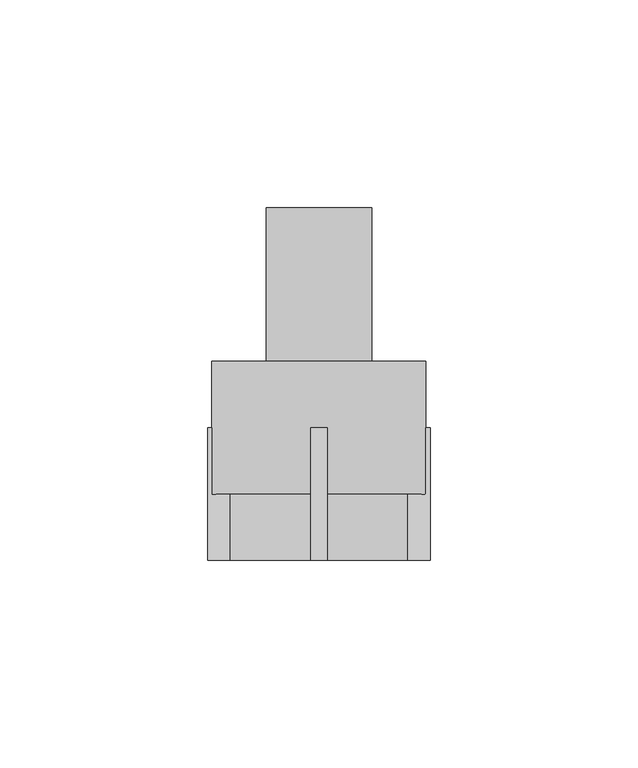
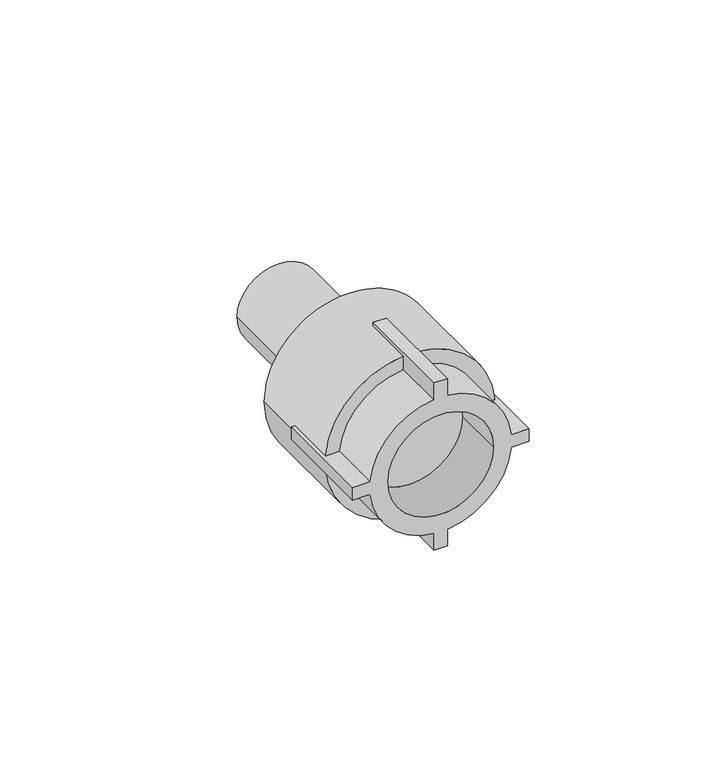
"""IFC4 building model written with IfcOpenShell, lengths in millimetres: pipe fitting geometry, EGB_VASEN_ PPR_Entronque rosca macho WXR101 : Entronque rosca macho WXR101."""

from ifc_helpers import new_model, si_unit, point, frame, origin, origin_2d, place, context, project, spatial, polyline, circle_curve, trimmed, segment, composite_curve, outline, extrude, source, transform, mapped, element, save
from ifc_brep_helpers import plane_surface, cylinder_surface, revolved_surface, advanced_brep


def pipe_fitting_51520e09(model_context):
    return source(origin(), model_context, "Body", "SolidModel", [
        advanced_brep(
        [(2.0, -16.0, 26.8), (-2.0, -16.0, 26.8), (-2.0, -16.0, 21.4067746), (-21.4067746, -16.0, 2.0), (-26.8, -16.0, 2.0), (-26.8, -16.0, -2.0), (-21.4067746, -16.0, -2.0), (-2.0, -16.0, -21.4067746), (-2.0, -16.0, -26.8), (2.0, -16.0, -26.8), (2.0, -16.0, -21.4067746), (21.4067746, -16.0, -2.0), (26.8, -16.0, -2.0), (26.8, -16.0, 2.0), (21.4067746, -16.0, 2.0), (2.0, -16.0, 21.4067746), (-16.0, -16.0, 0.0), (16.0, -16.0, 0.0), (-2.0, 16.0, 26.8), (2.0, 16.0, 26.8), (2.0, 16.0, 25.7223638), (-2.0, 16.0, 25.7223638), (2.0, 16.0, -26.8), (-2.0, 16.0, -26.8), (-2.0, 16.0, -25.7223638), (2.0, 16.0, -25.7223638), (26.8, 16.0, 2.0), (26.8, 16.0, -2.0), (25.7223638, 16.0, -2.0), (25.8, 16.0, 0.0), (25.7223638, 16.0, 2.0), (-26.8, 16.0, -2.0), (-26.8, 16.0, 2.0), (-25.7223638, 16.0, 2.0), (-25.8, 16.0, 0.0), (-25.7223638, 16.0, -2.0), (2.0, 0.0, 21.4067746), (2.0, 0.0, 25.7223638), (-2.0, 0.0, 25.7223638), (-2.0, 0.0, 21.4067746), (2.0, 0.0, -25.7223638), (2.0, 0.0, -21.4067746), (-2.0, 0.0, -21.4067746), (-2.0, 0.0, -25.7223638), (21.4067746, 0.0, -2.0), (25.7223638, 0.0, -2.0), (25.7223638, 0.0, 2.0), (21.4067746, 0.0, 2.0), (-25.7223638, 0.0, -2.0), (-21.4067746, 0.0, -2.0), (-21.4067746, 0.0, 2.0), (-25.7223638, 0.0, 2.0), (-16.0, 0.0, 0.0), (16.0, 0.0, 0.0), (-25.8, 32.0, 0.0), (25.8, 32.0, 0.0)],
        [
            (0, 1),
            (1, 2),
            (2, 3, circle_curve(frame((0.0, -16.0, 0.0), z_axis=(0.0, -1.0, 0.0), x_axis=(1.0, 0.0, 0.0)), 21.5)),
            (3, 4),
            (4, 5),
            (5, 6),
            (6, 7, circle_curve(frame((0.0, -16.0, 0.0), z_axis=(0.0, -1.0, 0.0), x_axis=(1.0, 0.0, 0.0)), 21.5)),
            (7, 8),
            (8, 9),
            (9, 10),
            (10, 11, circle_curve(frame((0.0, -16.0, 0.0), z_axis=(0.0, -1.0, 0.0), x_axis=(1.0, 0.0, 0.0)), 21.5)),
            (11, 12),
            (12, 13),
            (13, 14),
            (14, 15, circle_curve(frame((0.0, -16.0, 0.0), z_axis=(0.0, -1.0, 0.0), x_axis=(1.0, 0.0, 0.0)), 21.5)),
            (15, 0),
            (16, 17, circle_curve(frame((0.0, -16.0, 0.0), z_axis=(0.0, 1.0, 0.0), x_axis=(1.0, 0.0, 0.0)), 16.0)),
            (17, 16, circle_curve(frame((0.0, -16.0, 0.0), z_axis=(0.0, 1.0, 0.0), x_axis=(1.0, 0.0, 0.0)), 16.0)),
            (18, 19),
            (19, 20),
            (20, 21, circle_curve(frame((0.0, 16.0, 0.0), z_axis=(0.0, -1.0, 0.0), x_axis=(1.0, 0.0, 0.0)), 25.8)),
            (21, 18),
            (22, 23),
            (23, 24),
            (24, 25, circle_curve(frame((0.0, 16.0, 0.0), z_axis=(0.0, -1.0, 0.0), x_axis=(1.0, 0.0, 0.0)), 25.8)),
            (25, 22),
            (26, 27),
            (27, 28),
            (28, 29, circle_curve(frame((0.0, 16.0, 0.0), z_axis=(0.0, -1.0, 0.0), x_axis=(1.0, 0.0, 0.0)), 25.8)),
            (29, 30, circle_curve(frame((0.0, 16.0, 0.0), z_axis=(0.0, -1.0, 0.0), x_axis=(1.0, 0.0, 0.0)), 25.8)),
            (30, 26),
            (31, 32),
            (32, 33),
            (33, 34, circle_curve(frame((0.0, 16.0, 0.0), z_axis=(0.0, -1.0, 0.0), x_axis=(1.0, 0.0, 0.0)), 25.8)),
            (34, 35, circle_curve(frame((0.0, 16.0, 0.0), z_axis=(0.0, -1.0, 0.0), x_axis=(1.0, 0.0, 0.0)), 25.8)),
            (35, 31),
            (19, 0),
            (15, 36),
            (36, 37),
            (37, 20),
            (18, 1),
            (21, 38),
            (38, 39),
            (39, 2),
            (8, 23),
            (22, 9),
            (25, 40),
            (40, 41),
            (41, 10),
            (7, 42),
            (42, 43),
            (43, 24),
            (27, 12),
            (11, 44),
            (44, 45),
            (45, 28),
            (26, 13),
            (30, 46),
            (46, 47),
            (47, 14),
            (5, 31),
            (35, 48),
            (48, 49),
            (49, 6),
            (32, 4),
            (3, 50),
            (50, 51),
            (51, 33),
            (49, 42, circle_curve(frame((0.0, 0.0, 0.0), z_axis=(0.0, -1.0, 0.0), x_axis=(1.0, 0.0, 0.0)), 21.5)),
            (41, 44, circle_curve(frame((0.0, 0.0, 0.0), z_axis=(0.0, -1.0, 0.0), x_axis=(1.0, 0.0, 0.0)), 21.5)),
            (39, 50, circle_curve(frame((0.0, 0.0, 0.0), z_axis=(0.0, -1.0, 0.0), x_axis=(1.0, 0.0, 0.0)), 21.5)),
            (47, 36, circle_curve(frame((0.0, 0.0, 0.0), z_axis=(0.0, -1.0, 0.0), x_axis=(1.0, 0.0, 0.0)), 21.5)),
            (16, 52),
            (52, 53, circle_curve(frame((0.0, 0.0, 0.0), z_axis=(0.0, 1.0, 0.0), x_axis=(1.0, 0.0, 0.0)), 16.0)),
            (53, 17),
            (53, 52, circle_curve(frame((0.0, 0.0, 0.0), z_axis=(0.0, 1.0, 0.0), x_axis=(1.0, 0.0, 0.0)), 16.0)),
            (40, 45, circle_curve(frame((0.0, 0.0, 0.0), z_axis=(0.0, -1.0, 0.0), x_axis=(1.0, 0.0, 0.0)), 25.8)),
            (48, 43, circle_curve(frame((0.0, 0.0, 0.0), z_axis=(0.0, -1.0, 0.0), x_axis=(1.0, 0.0, 0.0)), 25.8)),
            (46, 37, circle_curve(frame((0.0, 0.0, 0.0), z_axis=(0.0, -1.0, 0.0), x_axis=(1.0, 0.0, 0.0)), 25.8)),
            (38, 51, circle_curve(frame((0.0, 0.0, 0.0), z_axis=(0.0, -1.0, 0.0), x_axis=(1.0, 0.0, 0.0)), 25.8)),
            (54, 55, circle_curve(frame((0.0, 32.0, 0.0), z_axis=(0.0, 1.0, 0.0), x_axis=(1.0, 0.0, 0.0)), 25.8)),
            (55, 54, circle_curve(frame((0.0, 32.0, 0.0), z_axis=(0.0, 1.0, 0.0), x_axis=(1.0, 0.0, 0.0)), 25.8)),
            (55, 29),
            (34, 54),
        ],
        [
            plane_surface(frame((0.0, -16.0, 0.0), z_axis=(0.0, -1.0, 0.0), x_axis=(0.0, 0.0, 1.0))),
            plane_surface(frame((0.0, 16.0, 0.0), z_axis=(0.0, 1.0, 0.0), x_axis=(0.0, 0.0, 1.0))),
            plane_surface(frame((2.0, -16.0, 20.5), z_axis=(1.0, 0.0, 0.0), x_axis=(0.0, 1.0, 0.0))),
            plane_surface(frame((2.0, -16.0, 26.8), z_axis=(0.0, 0.0, 1.0), x_axis=(0.0, 1.0, 0.0))),
            plane_surface(frame((-2.0, -16.0, 26.8), z_axis=(-1.0, 0.0, 0.0), x_axis=(0.0, 1.0, 0.0))),
            plane_surface(frame((-2.0, -16.0, -26.8), z_axis=(0.0, 0.0, -1.0), x_axis=(0.0, 1.0, 0.0))),
            plane_surface(frame((2.0, -16.0, -26.8), z_axis=(1.0, 0.0, 0.0), x_axis=(0.0, 1.0, 0.0))),
            plane_surface(frame((-2.0, -16.0, -20.5), z_axis=(-1.0, 0.0, 0.0), x_axis=(0.0, 1.0, 0.0))),
            plane_surface(frame((20.5, -16.0, -2.0), z_axis=(0.0, 0.0, -1.0), x_axis=(0.0, 1.0, 0.0))),
            plane_surface(frame((26.8, -16.0, -2.0), z_axis=(1.0, 0.0, 0.0), x_axis=(0.0, 1.0, 0.0))),
            plane_surface(frame((26.8, -16.0, 2.0), z_axis=(0.0, 0.0, 1.0), x_axis=(0.0, 1.0, 0.0))),
            plane_surface(frame((-26.8, -16.0, -2.0), z_axis=(0.0, 0.0, -1.0), x_axis=(0.0, 1.0, 0.0))),
            plane_surface(frame((-20.5, -16.0, 2.0), z_axis=(0.0, 0.0, 1.0), x_axis=(0.0, 1.0, 0.0))),
            plane_surface(frame((-26.8, -16.0, 2.0), z_axis=(-1.0, 0.0, 0.0), x_axis=(0.0, 1.0, 0.0))),
            cylinder_surface(frame((0.0, 0.0, 0.0), z_axis=(0.0, -1.0, 0.0), x_axis=(1.0, 0.0, 0.0)), 21.5),
            revolved_surface(polyline([(16.0, 0.0, 0.0), (16.0, -16.0, 0.0)]), (0.0, 0.0, 0.0), (0.0, 1.0, 0.0)),
            plane_surface(frame((25.8, 0.0, 0.0), z_axis=(0.0, -1.0, 0.0), x_axis=(0.0, 0.0, 1.0))),
            plane_surface(frame((25.8, 32.0, 0.0), z_axis=(0.0, 1.0, 0.0), x_axis=(0.0, 0.0, -1.0))),
            cylinder_surface(frame((0.0, 32.0, 0.0), z_axis=(0.0, -1.0, 0.0), x_axis=(1.0, 0.0, 0.0)), 25.8),
        ],
        [
            (0, [[1, 2, 3, 4, 5, 6, 7, 8, 9, 10, 11, 12, 13, 14, 15, 16], [17, 18]]),
            (1, [[19, 20, 21, 22]]),
            (1, [[23, 24, 25, 26]]),
            (1, [[27, 28, 29, 30, 31]]),
            (1, [[32, 33, 34, 35, 36]]),
            (2, [[37, -16, 38, 39, 40, -20]]),
            (3, [[-1, -37, -19, 41]]),
            (4, [[-41, -22, 42, 43, 44, -2]]),
            (5, [[-9, 45, -23, 46]]),
            (6, [[-46, -26, 47, 48, 49, -10]]),
            (7, [[-45, -8, 50, 51, 52, -24]]),
            (8, [[53, -12, 54, 55, 56, -28]]),
            (9, [[-13, -53, -27, 57]]),
            (10, [[-57, -31, 58, 59, 60, -14]]),
            (11, [[61, -36, 62, 63, 64, -6]]),
            (12, [[65, -4, 66, 67, 68, -33]]),
            (13, [[-5, -65, -32, -61]]),
            (14, [[-7, -64, 69, -50]]),
            (14, [[-11, -49, 70, -54]]),
            (14, [[-3, -44, 71, -66]]),
            (14, [[-15, -60, 72, -38]]),
            (15, [[-17, 73, 74, 75]]),
            (15, [[-18, -75, 76, -73]]),
            (16, [[-74, -76]]),
            (16, [[77, -55, -70, -48]]),
            (16, [[78, -51, -69, -63]]),
            (16, [[79, -39, -72, -59]]),
            (16, [[80, -67, -71, -43]]),
            (17, [[81, 82]]),
            (18, [[-82, 83, -29, -56, -77, -47, -25, -52, -78, -62, -35, 84]]),
            (18, [[-81, -84, -34, -68, -80, -42, -21, -40, -79, -58, -30, -83]]),
        ],
    ),
        extrude(outline(composite_curve([segment(trimmed(circle_curve(origin_2d(), 12.7), [point((0.0, -12.7))], [point((0.0, 12.7))], False, "CARTESIAN"), True, "CONTINUOUS"), segment(trimmed(circle_curve(origin_2d(), 12.7), [point((0.0, 12.7))], [point((0.0, -12.7))], False, "CARTESIAN"), True, "CONTINUOUS")], self_intersect=False)), frame((0.0, 16.0, 0.0), z_axis=(0.0, 1.0, 0.0), x_axis=(0.0, 0.0, 1.0)), (0.0, 0.0, 1.0), 53.0),
    ])


if __name__ == "__main__":
    model = new_model("IFC4")
    model_context = context("Model", 3, world=origin())
    ifc_project = project(units=[si_unit("LENGTHUNIT", "METRE", prefix="MILLI")], contexts=[model_context])
    site = spatial("IfcSite", under=ifc_project)
    building = spatial("IfcBuilding", under=site)
    placement = place(None, origin())
    pipe_fitting_shape = pipe_fitting_51520e09(model_context)
    element("IfcPipeFitting", 1, ObjectType="EGB_VASEN_ PPR_Entronque rosca macho WXR101 : Entronque rosca macho WXR101", at=placement, inside=building, context=model_context, shape_type="MappedRepresentation", body=[
        mapped(pipe_fitting_shape, transform((0.0, 0.0, 0.0), x_axis=(1.0, 0.0, 0.0), y_axis=(0.0, 1.0, 0.0), z_axis=(0.0, 0.0, 1.0))),
    ])
    save(model, "model.ifc")
